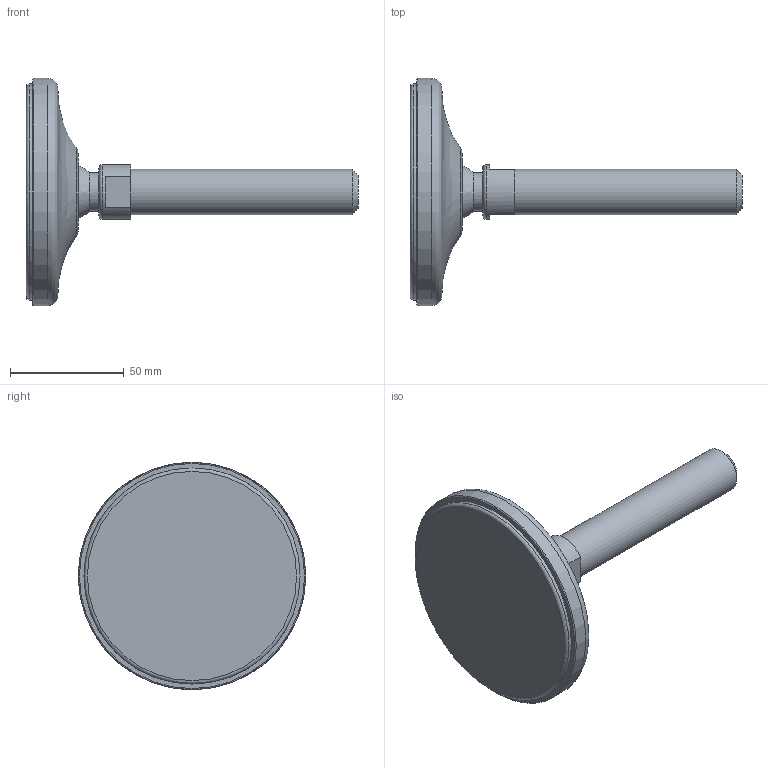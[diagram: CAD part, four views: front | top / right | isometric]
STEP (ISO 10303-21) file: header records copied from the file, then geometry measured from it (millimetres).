
FILE_DESCRIPTION(('STEP AP203'),'2;1');
FILE_NAME('10563.stp','2015-09-23T11:50:39',(''),(''),'2008.1.107','THINKDESIGN','');
FILE_SCHEMA(('CONFIG_CONTROL_DESIGN'));
Length unit declared in the file: millimetre
Bounding box: 146 x 100 x 100 mm (x, y, z)
Volume: 167891.3 mm3; surface area: 45560.7 mm2
Topology: 5 solids, 5 shells, 31 faces, 70 edges, 51 vertices
Faces by surface type: plane 16, bspline 8, cylinder 7
Full cylindrical faces by diameter (mm): 17 x1, 20 x1, 22 x1, 24 x1, 95 x2, 100 x1
Entity records: 1767 total; most frequent: CARTESIAN_POINT 941, DIRECTION 170, ORIENTED_EDGE 140, AXIS2_PLACEMENT_3D 77, EDGE_CURVE 70, CIRCLE 54, VERTEX_POINT 51, EDGE_LOOP 33
